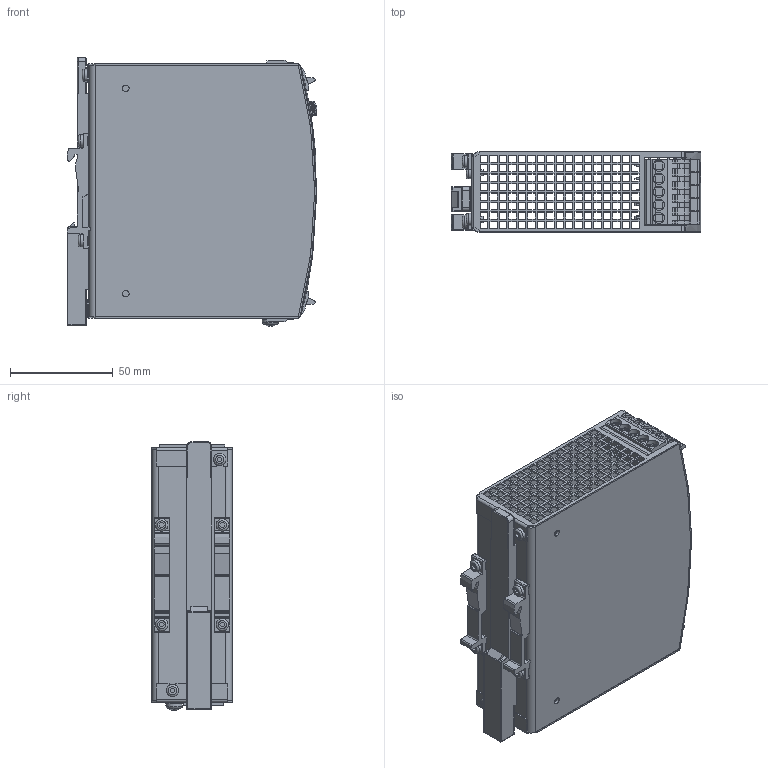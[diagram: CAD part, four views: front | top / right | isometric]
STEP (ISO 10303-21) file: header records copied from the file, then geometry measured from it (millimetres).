
FILE_DESCRIPTION(/* description */ ('HOUSING BODY','CAx-IF Rec.Pracs.---Representation and Presentation of Product Manufacturing Information (PMI)---3.8---2014-02-18'),/* implementation_level */ '2;1');
FILE_NAME(/* name */ 'L:\MKT-GER\Daten von KO\CP10.241-S1 (410.06)\md3_cp10_241-s1.stp',/* time_stamp */ '2016-03-17T11:28:10+01:00',/* author */ ('rahns'),/* organization */ (''),/* preprocessor_version */ 'ST-DEVELOPER v16.1',/* originating_system */ 'Autodesk Inventor 2016',/* authorisation */ '');
FILE_SCHEMA (('AP242_MANAGED_MODEL_BASED_3D_ENGINEERING_MIM_LF { 1 0 10303 442 1 1 4 }'));
Products named in the file (14): HOUSING BODY 410.00; HOUSING COVER 410.06; FRONTFOIL 410.06; SLIDER; SCREW 3x6; T HOLDER; SCREW 4x8; WASHER 4; XT-LP2SW-R6; LED GN; POTENTIOMETER COVER; TERMINAL 3P R6,35 CC; TERMINAL 5P R6,35 CC; 410.06
Assembly tree (19 placements, depth 2):
  410.06
    HOUSING BODY 410.00
    HOUSING COVER 410.06
    FRONTFOIL 410.06
    SLIDER
    SCREW 3x6  x6
    T HOLDER  x2
    SCREW 4x8
    WASHER 4
    XT-LP2SW-R6
    LED GN
    POTENTIOMETER COVER
    TERMINAL 3P R6,35 CC
    TERMINAL 5P R6,35 CC
Bounding box: 121.7 x 39 x 130.77 mm (x, y, z)
Volume: 83616.2 mm3; surface area: 107948.3 mm2
Topology: 19 solids, 19 shells, 2565 faces, 7313 edges, 4848 vertices
Faces by surface type: plane 2024, cylinder 277, bspline 202, torus 25, cone 24, sphere 13
Full cylindrical faces by diameter (mm): 0.3 x4, 2.45 x2, 2.7 x1, 3 x6, 3.1 x4, 3.2 x3, 3.5 x1, 3.621 x1, 4 x1, 4.355 x1, 4.5 x1, 4.6 x1, 5.5 x8, 6 x6
Entity records: 84904 total; most frequent: CARTESIAN_POINT 20480, ORIENTED_EDGE 13822, DIRECTION 11739, EDGE_CURVE 6911, LINE 5683, VECTOR 5683, VERTEX_POINT 4597, EDGE_LOOP 3150
